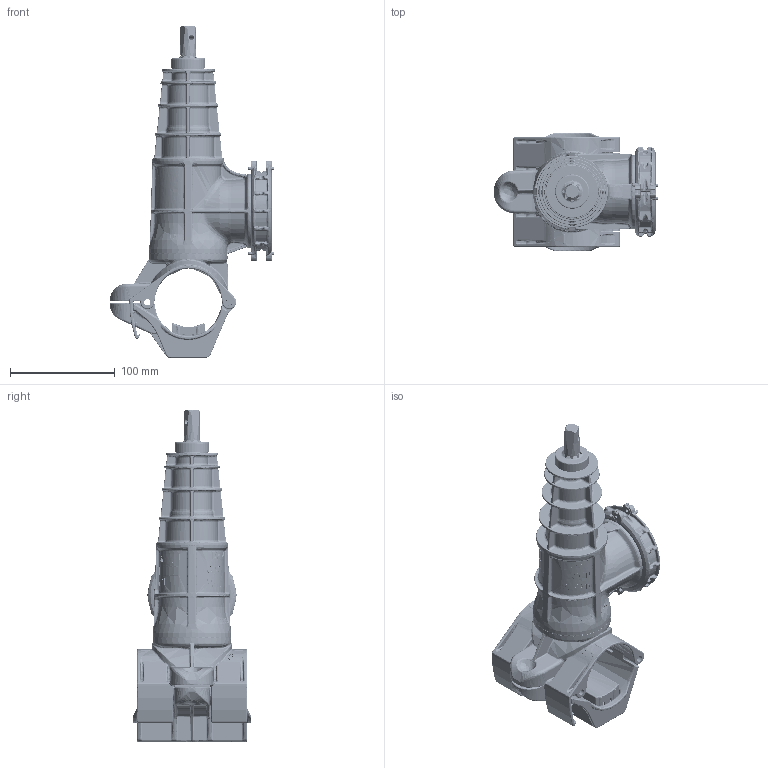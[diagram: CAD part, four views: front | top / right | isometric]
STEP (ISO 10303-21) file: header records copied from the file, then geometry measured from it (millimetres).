
FILE_DESCRIPTION(('STEP AP214'),'1');
FILE_NAME('710693.stp','2019-04-05T07:46:25',('CAD-PIM'),('TransMagic, Inc.'),'TMR12sp0','TransMagic R12',' ');
FILE_SCHEMA(('AUTOMOTIVE_DESIGN'));
Length unit declared in the file: millimetre
Products named in the file (1): 710693 (1)
Bounding box: 157.37 x 113 x 316.95 mm (x, y, z)
Volume: 842510 mm3; surface area: 190158.2 mm2
Topology: 1 solids, 1 shells, 6213 faces, 15335 edges, 8981 vertices
Faces by surface type: bspline 6213
Entity records: 441994 total; most frequent: CARTESIAN_POINT 164116, STYLED_ITEM 30271, PRESENTATION_STYLE_ASSIGNMENT 30271, COLOUR_RGB 30271, ORIENTED_EDGE 30152, EDGE_CURVE 15076, CURVE_STYLE 15076, DRAUGHTING_PRE_DEFINED_CURVE_FONT 15076
